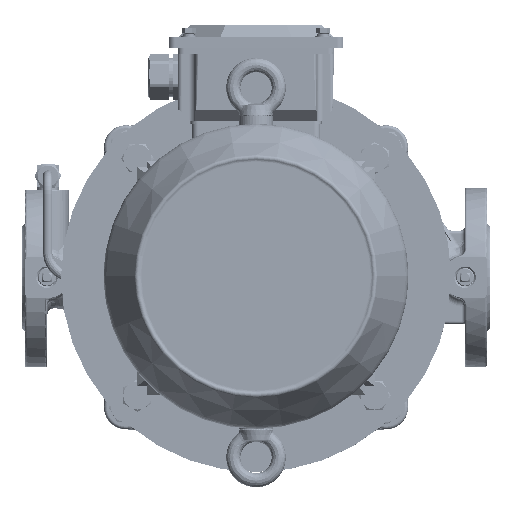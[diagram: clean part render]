
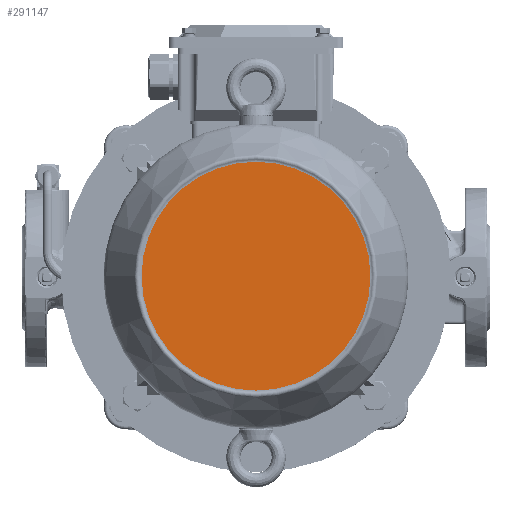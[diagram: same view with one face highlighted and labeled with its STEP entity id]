
A CAD part, top view. The second image highlights one B-rep face of the part: STEP entity #291147.
In plain terms, the highlighted planar face has unit normal (0, 0, 1) as drawn and (0, 1, 0) by its records, which use the part's own axes.
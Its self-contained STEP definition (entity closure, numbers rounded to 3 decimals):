
#262097=CARTESIAN_POINT('',(0.,62.61,
0.));
#262098=DIRECTION('',(0.,-1.,0.));
#262099=DIRECTION('',(0.,0.,1.));
#262100=AXIS2_PLACEMENT_3D('',#262097,#262098,#262099);
#262102=CARTESIAN_POINT('',(0.,62.61,
0.));
#262103=DIRECTION('',(0.,-1.,0.));
#262104=DIRECTION('',(0.,0.,-1.));
#262105=AXIS2_PLACEMENT_3D('',#262102,#262103,#262104);
#266548=CARTESIAN_POINT('',(0.,62.61,
-73.366));
#266549=VERTEX_POINT('',#266548);
#266550=CARTESIAN_POINT('',(0.,62.61,
73.366));
#266551=VERTEX_POINT('',#266550);
#291138=CARTESIAN_POINT('',(0.,62.61,
0.));
#291139=DIRECTION('',(0.,1.,0.));
#291140=DIRECTION('',(0.,0.,-1.));
#291141=AXIS2_PLACEMENT_3D('',#291138,#291139,#291140);
#291142=PLANE('',#291141);
#291143=ORIENTED_EDGE('',*,*,#291131,.T.);
#291144=ORIENTED_EDGE('',*,*,#291117,.T.);
#291145=EDGE_LOOP('',(#291143,#291144));
#291146=FACE_OUTER_BOUND('',#291145,.F.);
#291147=ADVANCED_FACE('',(#291146),#291142,.T.);
#262101=CIRCLE('',#262100,73.366);
#262106=CIRCLE('',#262105,73.366);
#291117=EDGE_CURVE('',#266549,#266551,#262106,.T.);
#291131=EDGE_CURVE('',#266551,#266549,#262101,.T.);
